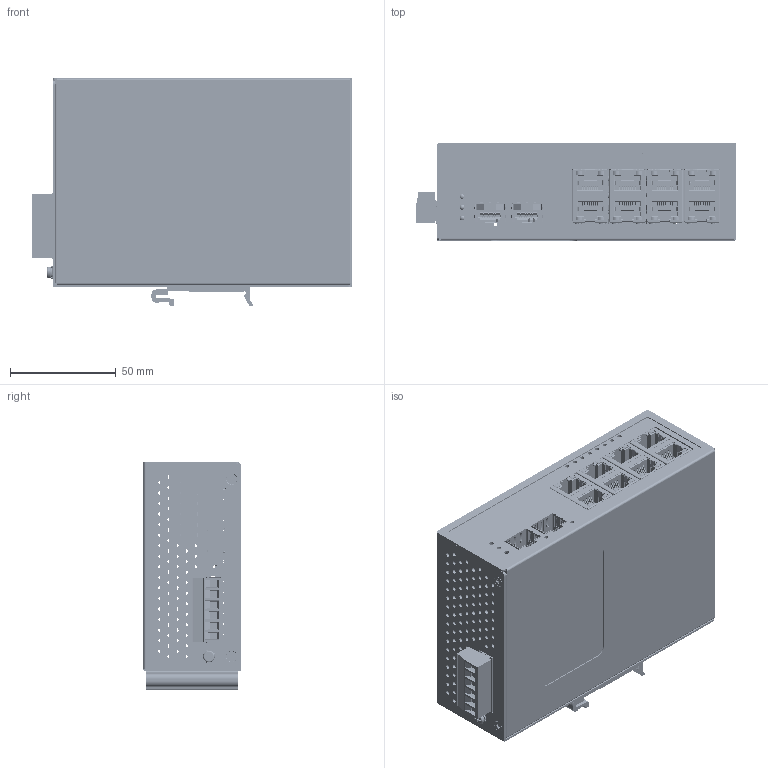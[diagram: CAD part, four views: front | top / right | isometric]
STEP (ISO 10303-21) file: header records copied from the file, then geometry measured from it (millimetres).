
FILE_DESCRIPTION(/* description */ ('STEP AP242','CAx-IF Rec.Pracs.---Representation and Presentation of Product Manufacturing Information (PMI)---4.0---2014-10-13','CAx-IF Rec.Pracs.---3D Tessellated Geometry---0.4---2014-09-14','2;1'),/* implementation_level */ '2;1');
FILE_NAME(/* name */ '6851eb473dc7c7436b815137',/* time_stamp */ '2025-06-17T22:25:37Z',/* author */ (''),/* organization */ (''),/* preprocessor_version */ 'ST-DEVELOPER v20',/* originating_system */ 'ONSHAPE BY PTC INC, 1.199',/* authorisation */ ' ');
FILE_SCHEMA (('AP242_MANAGED_MODEL_BASED_3D_ENGINEERING_MIM_LF { 1 0 10303 442 1 1 4 }'));
Products named in the file (236): ETH-82GP-48-1; RJ-445 Connector Mounting Pins; RJ-45 Housing; LED Lense; RJ-45 Contacts; SFP Componenets; Flat Head Screw; RJ-45 Connector Components; RJ-45 Connector Contacts; Standoff; RJ-45 Connector Inserts; Lexan Label; SFP Cage; RJ-45 Connector Base; Left Housing; Bracket; DIN Clip; Right Housing; LED; Ground Screw; Connector Socket; Connector
Assembly tree (235 placements, depth 2):
  ETH-82GP-48-1
    RJ-445 Connector Mounting Pins
    RJ-445 Connector Mounting Pins
    RJ-445 Connector Mounting Pins
    RJ-445 Connector Mounting Pins
    RJ-45 Housing
    RJ-445 Connector Mounting Pins
    RJ-445 Connector Mounting Pins
    LED Lense
    RJ-445 Connector Mounting Pins
    RJ-445 Connector Mounting Pins
    LED Lense
    RJ-445 Connector Mounting Pins
    RJ-445 Connector Mounting Pins
    RJ-445 Connector Mounting Pins
    RJ-45 Contacts
    RJ-445 Connector Mounting Pins
    RJ-445 Connector Mounting Pins
    RJ-45 Housing
    RJ-445 Connector Mounting Pins
    RJ-445 Connector Mounting Pins
    RJ-445 Connector Mounting Pins
    RJ-445 Connector Mounting Pins
    RJ-445 Connector Mounting Pins
    RJ-445 Connector Mounting Pins
    RJ-445 Connector Mounting Pins
    SFP Componenets
    RJ-445 Connector Mounting Pins
    RJ-445 Connector Mounting Pins
    RJ-445 Connector Mounting Pins
    RJ-445 Connector Mounting Pins
    RJ-445 Connector Mounting Pins
    RJ-445 Connector Mounting Pins
    RJ-445 Connector Mounting Pins
    Flat Head Screw
    RJ-445 Connector Mounting Pins
    RJ-45 Connector Components
    RJ-445 Connector Mounting Pins
    RJ-445 Connector Mounting Pins
    RJ-445 Connector Mounting Pins
    RJ-45 Connector Components
    RJ-445 Connector Mounting Pins
    RJ-445 Connector Mounting Pins
    RJ-445 Connector Mounting Pins
    RJ-445 Connector Mounting Pins
    RJ-45 Connector Contacts
    RJ-445 Connector Mounting Pins
    Standoff
    RJ-445 Connector Mounting Pins
    RJ-445 Connector Mounting Pins
    RJ-445 Connector Mounting Pins
    LED Lense
    RJ-445 Connector Mounting Pins
    RJ-445 Connector Mounting Pins
    RJ-45 Connector Components
    RJ-445 Connector Mounting Pins
    RJ-445 Connector Mounting Pins
    RJ-45 Contacts
    RJ-445 Connector Mounting Pins
    RJ-445 Connector Mounting Pins
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Bounding box: 151.8 x 46 x 107.89 mm (x, y, z)
Volume: 85521.4 mm3; surface area: 208521.9 mm2
Topology: 235 solids, 255 shells, 21136 faces, 59210 edges, 38204 vertices
Faces by surface type: plane 16079, cylinder 4091, torus 477, bspline 218, sphere 155, cone 116
Full cylindrical faces by diameter (mm): 0.6 x4, 0.9 x6, 1.4 x6, 1.9 x245, 2 x49, 2.2 x10, 2.3 x3, 2.4 x10, 2.449 x4, 2.459 x4, 2.8 x5, 2.9 x8, 3 x3, 3.15 x8, 3.2 x3, 3.5 x7, 3.78 x4, 3.783 x6, 3.99 x8, 4 x28, 4.2 x13, 5 x10, 5.5 x1
Entity records: 688189 total; most frequent: CARTESIAN_POINT 134672, ORIENTED_EDGE 116686, DIRECTION 108958, EDGE_CURVE 58343, LINE 47852, VECTOR 47852, VERTEX_POINT 38025, AXIS2_PLACEMENT_3D 30553
